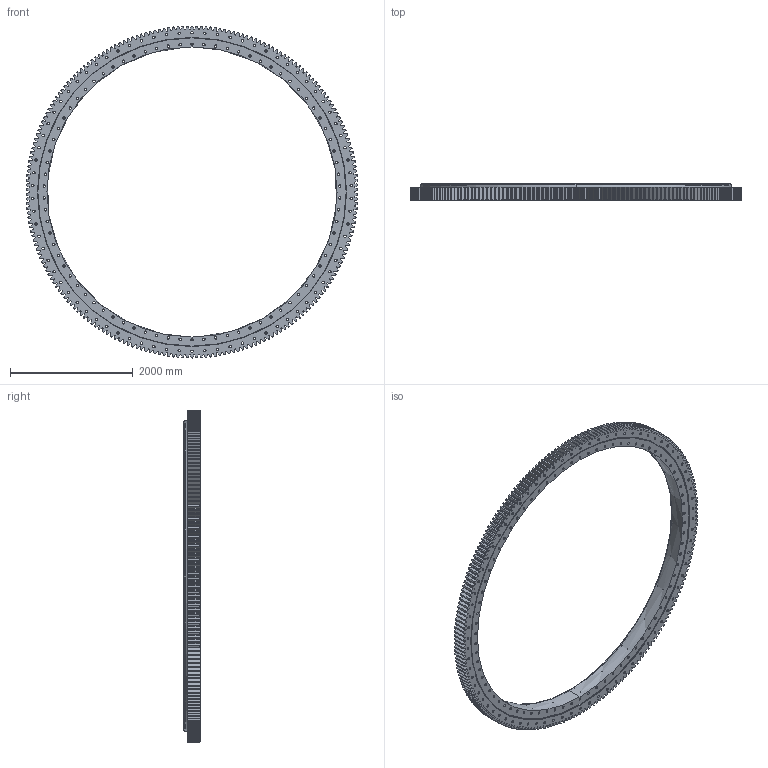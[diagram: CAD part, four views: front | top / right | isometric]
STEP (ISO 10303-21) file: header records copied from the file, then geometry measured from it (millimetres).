
FILE_DESCRIPTION (( 'STEP AP214' ), '1' );
FILE_NAME ('SM3350-2-5419AA.STEP', '2022-11-29T07:22:40', ( '' ), ( '' ), 'SwSTEP 2.0', 'SolidWorks 2020', '' );
FILE_SCHEMA (( 'AUTOMOTIVE_DESIGN' ));
Length unit declared in the file: millimetre
Products named in the file (1): SM3350-2-5419AA
Bounding box: 5418.92 x 268 x 5419.2 mm (x, y, z)
Volume: 1124313646.5 mm3; surface area: 37017555.2 mm2
Topology: 5 solids, 5 shells, 2197 faces, 6338 edges, 4213 vertices
Faces by surface type: plane 999, cylinder 740, cone 458
Entity records: 77205 total; most frequent: CARTESIAN_POINT 20569, ORIENTED_EDGE 12676, DIRECTION 10717, EDGE_CURVE 6338, VERTEX_POINT 4213, AXIS2_PLACEMENT_3D 4061, EDGE_LOOP 2607, LINE 2595
